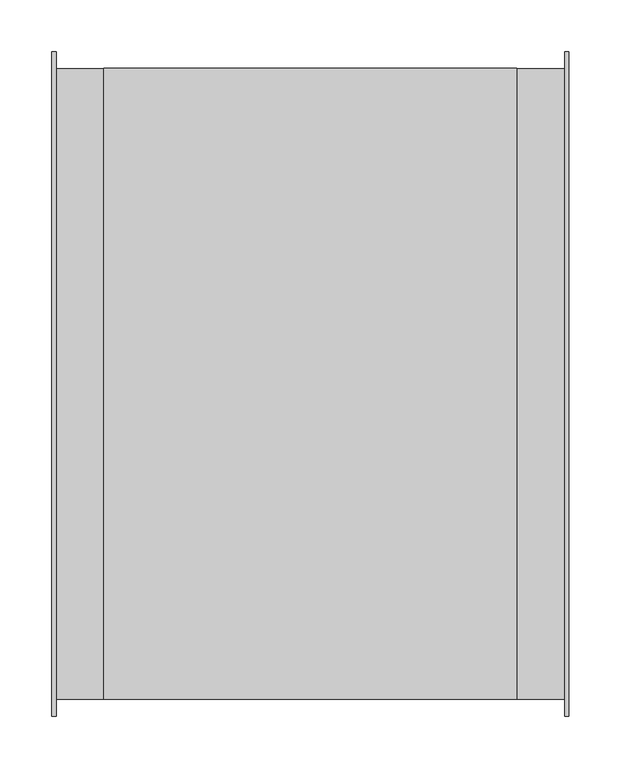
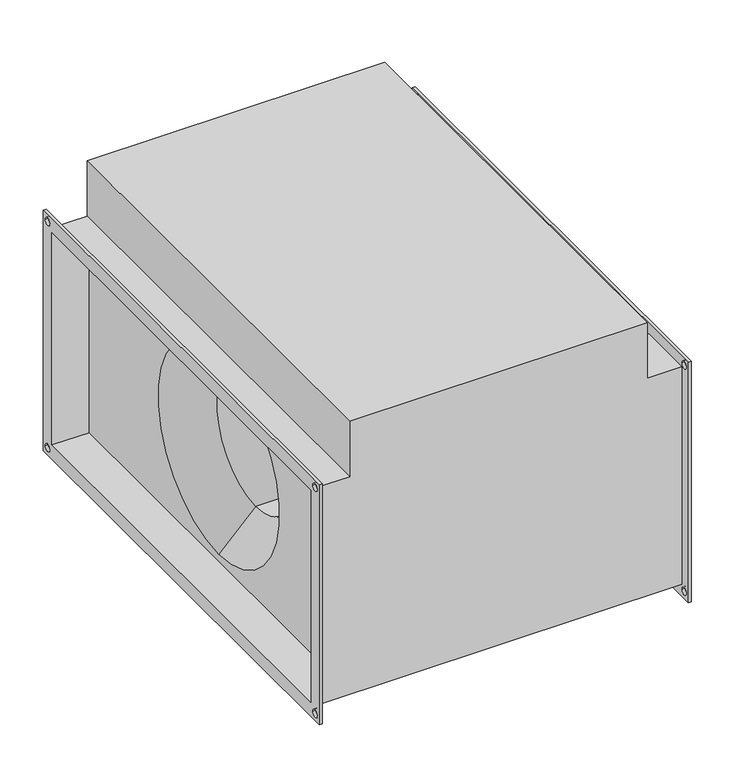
"""IFC4 building model written with IfcOpenShell, lengths in millimetres: proxy geometry, СВ_Вентилятор_КанальныйПрямоугольный_200-1000_SVPS : SVPS-600x300/28.2D."""

from ifc_helpers import new_model, si_unit, frame, origin, place, context, project, spatial, polyline, circle_curve, source, transform, mapped, element, save
from ifc_brep_helpers import plane_surface, revolved_surface, advanced_brep


def mechanical_equipment_7f2987f5(model_context):
    return source(origin(), model_context, "Body", "AdvancedBrep", [
        advanced_brep(
        [(-245.0, -304.0, 154.0), (-199.0, -304.0, 154.0), (-199.0, 304.0, 154.0), (-245.0, 304.0, 154.0), (199.0, 304.0, 232.0), (199.0, -304.0, 232.0), (199.0, -304.0, 154.0), (199.0, 304.0, 154.0), (199.0, 300.0, -150.0), (199.0, 300.0, 150.0), (199.0, -300.0, 150.0), (199.0, -300.0, -150.0), (199.0, 0.0, 140.0), (199.0, 0.0, -140.0), (-199.0, 300.0, 150.0), (-199.0, 300.0, -150.0), (-199.0, -300.0, -150.0), (-199.0, -300.0, 150.0), (-199.0, 0.0, -140.0), (-199.0, 0.0, 140.0), (-199.0, -304.0, 232.0), (-199.0, 304.0, 232.0), (-245.0, -304.0, -154.0), (245.0, -304.0, -154.0), (245.0, -304.0, 154.0), (-245.0, 304.0, -154.0), (245.0, 304.0, -154.0), (245.0, 304.0, 154.0), (149.0, 0.0, -90.0), (149.0, 0.0, 90.0), (-149.0, 0.0, 90.0), (-149.0, 0.0, -90.0), (-249.0, -320.0, 170.0), (-249.0, 320.0, 170.0), (-249.0, 320.0, -170.0), (-249.0, -320.0, -170.0), (-249.0, -300.0, 150.0), (-249.0, -300.0, -150.0), (-249.0, 300.0, -150.0), (-249.0, 300.0, 150.0), (-249.0, 305.0, 160.0), (-249.0, 315.0, 160.0), (-249.0, -315.0, 160.0), (-249.0, -305.0, 160.0), (-249.0, -315.0, -160.0), (-249.0, -305.0, -160.0), (-249.0, 305.0, -160.0), (-249.0, 315.0, -160.0), (-245.0, -320.0, 170.0), (-245.0, -320.0, -170.0), (-245.0, 320.0, -170.0), (-245.0, 320.0, 170.0), (-245.0, 315.0, 160.0), (-245.0, 305.0, 160.0), (-245.0, -305.0, 160.0), (-245.0, -315.0, 160.0), (-245.0, -305.0, -160.0), (-245.0, -315.0, -160.0), (-245.0, 315.0, -160.0), (-245.0, 305.0, -160.0), (245.0, 320.0, 170.0), (245.0, 320.0, -170.0), (245.0, -320.0, -170.0), (245.0, -320.0, 170.0), (245.0, 305.0, 160.0), (245.0, 315.0, 160.0), (245.0, -315.0, 160.0), (245.0, -305.0, 160.0), (245.0, -315.0, -160.0), (245.0, -305.0, -160.0), (245.0, 305.0, -160.0), (245.0, 315.0, -160.0), (249.0, 320.0, 170.0), (249.0, -320.0, 170.0), (249.0, -320.0, -170.0), (249.0, 320.0, -170.0), (249.0, 300.0, 150.0), (249.0, 300.0, -150.0), (249.0, -300.0, -150.0), (249.0, -300.0, 150.0), (249.0, 315.0, 160.0), (249.0, 305.0, 160.0), (249.0, -305.0, 160.0), (249.0, -315.0, 160.0), (249.0, -305.0, -160.0), (249.0, -315.0, -160.0), (249.0, 315.0, -160.0), (249.0, 305.0, -160.0)],
        [
            (0, 1),
            (1, 2),
            (2, 3),
            (3, 0),
            (4, 5),
            (5, 6),
            (6, 7),
            (7, 4),
            (8, 9),
            (9, 10),
            (10, 11),
            (11, 8),
            (12, 13, circle_curve(frame((199.0, 0.0, 0.0), z_axis=(-1.0, 0.0, 0.0), x_axis=(0.0, 0.0, 1.0)), 140.0)),
            (13, 12, circle_curve(frame((199.0, 0.0, 0.0), z_axis=(-1.0, 0.0, 0.0), x_axis=(0.0, 0.0, 1.0)), 140.0)),
            (14, 15),
            (15, 16),
            (16, 17),
            (17, 14),
            (18, 19, circle_curve(frame((-199.0, 0.0, 0.0), z_axis=(1.0, 0.0, 0.0), x_axis=(0.0, 0.0, 1.0)), 140.0)),
            (19, 18, circle_curve(frame((-199.0, 0.0, 0.0), z_axis=(1.0, 0.0, 0.0), x_axis=(0.0, 0.0, 1.0)), 140.0)),
            (20, 21),
            (21, 2),
            (1, 20),
            (5, 20),
            (0, 22),
            (22, 23),
            (23, 24),
            (24, 6),
            (22, 25),
            (25, 26),
            (26, 23),
            (21, 4),
            (7, 27),
            (27, 26),
            (25, 3),
            (24, 27),
            (28, 13),
            (12, 29),
            (29, 28, circle_curve(frame((149.0, 0.0, 0.0), z_axis=(-1.0, 0.0, 0.0), x_axis=(0.0, 0.0, 1.0)), 90.0)),
            (28, 29, circle_curve(frame((149.0, 0.0, 0.0), z_axis=(-1.0, 0.0, 0.0), x_axis=(0.0, 0.0, 1.0)), 90.0)),
            (29, 30),
            (30, 31, circle_curve(frame((-149.0, 0.0, 0.0), z_axis=(-1.0, 0.0, 0.0), x_axis=(0.0, 0.0, 1.0)), 90.0)),
            (31, 28),
            (31, 30, circle_curve(frame((-149.0, 0.0, 0.0), z_axis=(-1.0, 0.0, 0.0), x_axis=(0.0, 0.0, 1.0)), 90.0)),
            (30, 19),
            (18, 31),
            (32, 33),
            (33, 34),
            (34, 35),
            (35, 32),
            (36, 37),
            (37, 38),
            (38, 39),
            (39, 36),
            (40, 41, circle_curve(frame((-249.0, 310.0, 160.0), z_axis=(1.0, 0.0, 0.0), x_axis=(0.0, 1.0, 0.0)), 5.0)),
            (41, 40, circle_curve(frame((-249.0, 310.0, 160.0), z_axis=(1.0, 0.0, 0.0), x_axis=(0.0, 1.0, 0.0)), 5.0)),
            (42, 43, circle_curve(frame((-249.0, -310.0, 160.0), z_axis=(1.0, 0.0, 0.0), x_axis=(0.0, 1.0, 0.0)), 5.0)),
            (43, 42, circle_curve(frame((-249.0, -310.0, 160.0), z_axis=(1.0, 0.0, 0.0), x_axis=(0.0, 1.0, 0.0)), 5.0)),
            (44, 45, circle_curve(frame((-249.0, -310.0, -160.0), z_axis=(1.0, 0.0, 0.0), x_axis=(0.0, 1.0, 0.0)), 5.0)),
            (45, 44, circle_curve(frame((-249.0, -310.0, -160.0), z_axis=(1.0, 0.0, 0.0), x_axis=(0.0, 1.0, 0.0)), 5.0)),
            (46, 47, circle_curve(frame((-249.0, 310.0, -160.0), z_axis=(1.0, 0.0, 0.0), x_axis=(0.0, 1.0, 0.0)), 5.0)),
            (47, 46, circle_curve(frame((-249.0, 310.0, -160.0), z_axis=(1.0, 0.0, 0.0), x_axis=(0.0, 1.0, 0.0)), 5.0)),
            (48, 49),
            (49, 50),
            (50, 51),
            (51, 48),
            (52, 53, circle_curve(frame((-245.0, 310.0, 160.0), z_axis=(-1.0, 0.0, 0.0), x_axis=(0.0, 1.0, 0.0)), 5.0)),
            (53, 52, circle_curve(frame((-245.0, 310.0, 160.0), z_axis=(-1.0, 0.0, 0.0), x_axis=(0.0, 1.0, 0.0)), 5.0)),
            (54, 55, circle_curve(frame((-245.0, -310.0, 160.0), z_axis=(-1.0, 0.0, 0.0), x_axis=(0.0, 1.0, 0.0)), 5.0)),
            (55, 54, circle_curve(frame((-245.0, -310.0, 160.0), z_axis=(-1.0, 0.0, 0.0), x_axis=(0.0, 1.0, 0.0)), 5.0)),
            (56, 57, circle_curve(frame((-245.0, -310.0, -160.0), z_axis=(-1.0, 0.0, 0.0), x_axis=(0.0, 1.0, 0.0)), 5.0)),
            (57, 56, circle_curve(frame((-245.0, -310.0, -160.0), z_axis=(-1.0, 0.0, 0.0), x_axis=(0.0, 1.0, 0.0)), 5.0)),
            (58, 59, circle_curve(frame((-245.0, 310.0, -160.0), z_axis=(-1.0, 0.0, 0.0), x_axis=(0.0, 1.0, 0.0)), 5.0)),
            (59, 58, circle_curve(frame((-245.0, 310.0, -160.0), z_axis=(-1.0, 0.0, 0.0), x_axis=(0.0, 1.0, 0.0)), 5.0)),
            (35, 49),
            (48, 32),
            (34, 50),
            (33, 51),
            (60, 61),
            (61, 62),
            (62, 63),
            (63, 60),
            (64, 65, circle_curve(frame((245.0, 310.0, 160.0), z_axis=(1.0, 0.0, 0.0), x_axis=(0.0, 1.0, 0.0)), 5.0)),
            (65, 64, circle_curve(frame((245.0, 310.0, 160.0), z_axis=(1.0, 0.0, 0.0), x_axis=(0.0, 1.0, 0.0)), 5.0)),
            (66, 67, circle_curve(frame((245.0, -310.0, 160.0), z_axis=(1.0, 0.0, 0.0), x_axis=(0.0, 1.0, 0.0)), 5.0)),
            (67, 66, circle_curve(frame((245.0, -310.0, 160.0), z_axis=(1.0, 0.0, 0.0), x_axis=(0.0, 1.0, 0.0)), 5.0)),
            (68, 69, circle_curve(frame((245.0, -310.0, -160.0), z_axis=(1.0, 0.0, 0.0), x_axis=(0.0, 1.0, 0.0)), 5.0)),
            (69, 68, circle_curve(frame((245.0, -310.0, -160.0), z_axis=(1.0, 0.0, 0.0), x_axis=(0.0, 1.0, 0.0)), 5.0)),
            (70, 71, circle_curve(frame((245.0, 310.0, -160.0), z_axis=(1.0, 0.0, 0.0), x_axis=(0.0, 1.0, 0.0)), 5.0)),
            (71, 70, circle_curve(frame((245.0, 310.0, -160.0), z_axis=(1.0, 0.0, 0.0), x_axis=(0.0, 1.0, 0.0)), 5.0)),
            (72, 73),
            (73, 74),
            (74, 75),
            (75, 72),
            (76, 77),
            (77, 78),
            (78, 79),
            (79, 76),
            (80, 81, circle_curve(frame((249.0, 310.0, 160.0), z_axis=(-1.0, 0.0, 0.0), x_axis=(0.0, 1.0, 0.0)), 5.0)),
            (81, 80, circle_curve(frame((249.0, 310.0, 160.0), z_axis=(-1.0, 0.0, 0.0), x_axis=(0.0, 1.0, 0.0)), 5.0)),
            (82, 83, circle_curve(frame((249.0, -310.0, 160.0), z_axis=(-1.0, 0.0, 0.0), x_axis=(0.0, 1.0, 0.0)), 5.0)),
            (83, 82, circle_curve(frame((249.0, -310.0, 160.0), z_axis=(-1.0, 0.0, 0.0), x_axis=(0.0, 1.0, 0.0)), 5.0)),
            (84, 85, circle_curve(frame((249.0, -310.0, -160.0), z_axis=(-1.0, 0.0, 0.0), x_axis=(0.0, 1.0, 0.0)), 5.0)),
            (85, 84, circle_curve(frame((249.0, -310.0, -160.0), z_axis=(-1.0, 0.0, 0.0), x_axis=(0.0, 1.0, 0.0)), 5.0)),
            (86, 87, circle_curve(frame((249.0, 310.0, -160.0), z_axis=(-1.0, 0.0, 0.0), x_axis=(0.0, 1.0, 0.0)), 5.0)),
            (87, 86, circle_curve(frame((249.0, 310.0, -160.0), z_axis=(-1.0, 0.0, 0.0), x_axis=(0.0, 1.0, 0.0)), 5.0)),
            (63, 73),
            (72, 60),
            (62, 74),
            (61, 75),
            (39, 14),
            (17, 36),
            (38, 15),
            (37, 16),
            (76, 9),
            (8, 77),
            (11, 78),
            (10, 79),
            (40, 53),
            (52, 41),
            (64, 81),
            (80, 65),
            (42, 55),
            (54, 43),
            (66, 83),
            (82, 67),
            (44, 57),
            (56, 45),
            (68, 85),
            (84, 69),
            (46, 59),
            (58, 47),
            (70, 87),
            (86, 71),
        ],
        [
            plane_surface(frame((-199.0, 304.0, 154.0), z_axis=(0.0, 0.0, 1.0), x_axis=(-1.0, 0.0, 0.0))),
            plane_surface(frame((199.0, -304.0, 232.0), z_axis=(1.0, 0.0, 0.0), x_axis=(0.0, 0.0, -1.0))),
            plane_surface(frame((-199.0, -304.0, 232.0), z_axis=(-1.0, 0.0, 0.0), x_axis=(0.0, 0.0, 1.0))),
            plane_surface(frame((199.0, -304.0, 232.0), z_axis=(0.0, -1.0, 0.0), x_axis=(-1.0, 0.0, 0.0))),
            plane_surface(frame((199.0, -304.0, -154.0), z_axis=(0.0, 0.0, -1.0), x_axis=(-1.0, 0.0, 0.0))),
            plane_surface(frame((199.0, 304.0, -154.0), z_axis=(0.0, 1.0, 0.0), x_axis=(-1.0, 0.0, 0.0))),
            plane_surface(frame((199.0, 304.0, 232.0), z_axis=(0.0, 0.0, 1.0), x_axis=(-1.0, 0.0, 0.0))),
            plane_surface(frame((245.0, 304.0, 154.0), z_axis=(0.0, 0.0, 1.0), x_axis=(-1.0, 0.0, 0.0))),
            revolved_surface(polyline([(149.0, 0.0, 90.0), (199.0, 0.0, 140.0)]), (-636.0617897, 0.0, 0.0), (-1.0, 0.0, 0.0)),
            revolved_surface(polyline([(-149.0, 0.0, 90.0), (149.0, 0.0, 90.0)]), (-636.0617897, 0.0, 0.0), (-1.0, 0.0, 0.0)),
            revolved_surface(polyline([(-199.0, 0.0, 140.0), (-149.0, 0.0, 90.0)]), (-636.0617897, 0.0, 0.0), (-1.0, 0.0, 0.0)),
            plane_surface(frame((-249.0, -320.0, 170.0), z_axis=(-1.0, 0.0, 0.0), x_axis=(0.0, 0.0, 1.0))),
            plane_surface(frame((-245.0, -320.0, 170.0), z_axis=(1.0, 0.0, 0.0), x_axis=(0.0, 0.0, -1.0))),
            plane_surface(frame((-245.0, -320.0, 170.0), z_axis=(0.0, -1.0, 0.0), x_axis=(-1.0, 0.0, 0.0))),
            plane_surface(frame((-245.0, -320.0, -170.0), z_axis=(0.0, 0.0, -1.0), x_axis=(-1.0, 0.0, 0.0))),
            plane_surface(frame((-245.0, 320.0, -170.0), z_axis=(0.0, 1.0, 0.0), x_axis=(-1.0, 0.0, 0.0))),
            plane_surface(frame((-245.0, 320.0, 170.0), z_axis=(0.0, 0.0, 1.0), x_axis=(-1.0, 0.0, 0.0))),
            plane_surface(frame((245.0, 300.0, -150.0), z_axis=(-1.0, 0.0, 0.0), x_axis=(0.0, 0.0, 1.0))),
            plane_surface(frame((249.0, 300.0, -150.0), z_axis=(1.0, 0.0, 0.0), x_axis=(0.0, 0.0, -1.0))),
            plane_surface(frame((249.0, 320.0, 170.0), z_axis=(0.0, 0.0, 1.0), x_axis=(-1.0, 0.0, 0.0))),
            plane_surface(frame((249.0, -320.0, 170.0), z_axis=(0.0, -1.0, 0.0), x_axis=(-1.0, 0.0, 0.0))),
            plane_surface(frame((249.0, -320.0, -170.0), z_axis=(0.0, 0.0, -1.0), x_axis=(-1.0, 0.0, 0.0))),
            plane_surface(frame((249.0, 320.0, -170.0), z_axis=(0.0, 1.0, 0.0), x_axis=(-1.0, 0.0, 0.0))),
            plane_surface(frame((-245.0, -300.0, 150.0), z_axis=(0.0, 0.0, -1.0), x_axis=(-1.0, 0.0, 0.0))),
            plane_surface(frame((-245.0, 300.0, 150.0), z_axis=(0.0, -1.0, 0.0), x_axis=(-1.0, 0.0, 0.0))),
            plane_surface(frame((-245.0, 300.0, -150.0), z_axis=(0.0, 0.0, 1.0), x_axis=(-1.0, 0.0, 0.0))),
            plane_surface(frame((-245.0, -300.0, -150.0), z_axis=(0.0, 1.0, 0.0), x_axis=(-1.0, 0.0, 0.0))),
            plane_surface(frame((249.0, 300.0, 150.0), z_axis=(0.0, -1.0, 0.0), x_axis=(-1.0, 0.0, 0.0))),
            plane_surface(frame((249.0, 300.0, -150.0), z_axis=(0.0, 0.0, 1.0), x_axis=(-1.0, 0.0, 0.0))),
            plane_surface(frame((249.0, -300.0, -150.0), z_axis=(0.0, 1.0, 0.0), x_axis=(-1.0, 0.0, 0.0))),
            plane_surface(frame((249.0, -300.0, 150.0), z_axis=(0.0, 0.0, -1.0), x_axis=(-1.0, 0.0, 0.0))),
            revolved_surface(polyline([(-245.0, 315.0, 160.0), (-249.0, 315.0, 160.0)]), (-249.0, 310.0, 160.0), (1.0, 0.0, 0.0)),
            revolved_surface(polyline([(249.0, 315.0, 160.0), (245.0, 315.0, 160.0)]), (-249.0, 310.0, 160.0), (1.0, 0.0, 0.0)),
            revolved_surface(polyline([(-245.0, -305.0, 160.0), (-249.0, -305.0, 160.0)]), (0.0, -310.0, 160.0), (1.0, 0.0, 0.0)),
            revolved_surface(polyline([(249.0, -305.0, 160.0), (245.0, -305.0, 160.0)]), (0.0, -310.0, 160.0), (1.0, 0.0, 0.0)),
            revolved_surface(polyline([(-245.0, -305.0, -160.0), (-249.0, -305.0, -160.0)]), (0.0, -310.0, -160.0), (1.0, 0.0, 0.0)),
            revolved_surface(polyline([(249.0, -305.0, -160.0), (245.0, -305.0, -160.0)]), (0.0, -310.0, -160.0), (1.0, 0.0, 0.0)),
            revolved_surface(polyline([(-245.0, 315.0, -160.0), (-249.0, 315.0, -160.0)]), (0.0, 310.0, -160.0), (1.0, 0.0, 0.0)),
            revolved_surface(polyline([(249.0, 315.0, -160.0), (245.0, 315.0, -160.0)]), (0.0, 310.0, -160.0), (1.0, 0.0, 0.0)),
        ],
        [
            (0, [[1, 2, 3, 4]]),
            (1, [[5, 6, 7, 8]]),
            (1, [[9, 10, 11, 12], [13, 14]]),
            (2, [[15, 16, 17, 18], [19, 20]]),
            (2, [[21, 22, -2, 23]]),
            (3, [[24, -23, -1, 25, 26, 27, 28, -6]]),
            (4, [[-26, 29, 30, 31]]),
            (5, [[32, -8, 33, 34, -30, 35, -3, -22]]),
            (6, [[-5, -32, -21, -24]]),
            (7, [[-28, 36, -33, -7]]),
            (8, [[37, -13, 38, 39]]),
            (8, [[-37, 40, -38, -14]]),
            (9, [[-39, 41, 42, 43]]),
            (9, [[-40, -43, 44, -41]]),
            (10, [[-42, 45, -19, 46]]),
            (10, [[-44, -46, -20, -45]]),
            (11, [[47, 48, 49, 50], [51, 52, 53, 54], [55, 56], [57, 58], [59, 60], [61, 62]]),
            (12, [[63, 64, 65, 66], [-25, -4, -35, -29], [67, 68], [69, 70], [71, 72], [73, 74]]),
            (13, [[-50, 75, -63, 76]]),
            (14, [[-49, 77, -64, -75]]),
            (15, [[-48, 78, -65, -77]]),
            (16, [[-47, -76, -66, -78]]),
            (17, [[79, 80, 81, 82], [-27, -31, -34, -36], [83, 84], [85, 86], [87, 88], [89, 90]]),
            (18, [[91, 92, 93, 94], [95, 96, 97, 98], [99, 100], [101, 102], [103, 104], [105, 106]]),
            (19, [[-82, 107, -91, 108]]),
            (20, [[-81, 109, -92, -107]]),
            (21, [[-80, 110, -93, -109]]),
            (22, [[-79, -108, -94, -110]]),
            (23, [[-54, 111, -18, 112]]),
            (24, [[-53, 113, -15, -111]]),
            (25, [[-52, 114, -16, -113]]),
            (26, [[-51, -112, -17, -114]]),
            (27, [[-95, 115, -9, 116]]),
            (28, [[-96, -116, -12, 117]]),
            (29, [[-97, -117, -11, 118]]),
            (30, [[-115, -98, -118, -10]]),
            (31, [[119, -67, 120, -55]]),
            (32, [[121, -99, 122, -83]]),
            (31, [[-119, -56, -120, -68]]),
            (32, [[-121, -84, -122, -100]]),
            (33, [[123, -69, 124, -57]]),
            (34, [[125, -101, 126, -85]]),
            (33, [[-123, -58, -124, -70]]),
            (34, [[-125, -86, -126, -102]]),
            (35, [[127, -71, 128, -59]]),
            (36, [[129, -103, 130, -87]]),
            (35, [[-127, -60, -128, -72]]),
            (36, [[-129, -88, -130, -104]]),
            (37, [[131, -73, 132, -61]]),
            (38, [[133, -105, 134, -89]]),
            (37, [[-131, -62, -132, -74]]),
            (38, [[-133, -90, -134, -106]]),
        ],
    ),
    ])


if __name__ == "__main__":
    model = new_model("IFC4")
    model_context = context("Model", 3, world=origin())
    ifc_project = project(units=[si_unit("LENGTHUNIT", "METRE", prefix="MILLI")], contexts=[model_context])
    site = spatial("IfcSite", under=ifc_project)
    building = spatial("IfcBuilding", under=site)
    placement = place(None, origin())
    mechanical_equipment_shape = mechanical_equipment_7f2987f5(model_context)
    element("IfcBuildingElementProxy", 1, Name="СВ_Вентилятор_КанальныйПрямоугольный_200-1000_SVPS : SVPS-600x300/28.2D", ObjectType="СВ_Вентилятор_КанальныйПрямоугольный_200-1000_SVPS : SVPS-600x300/28.2D", at=placement, inside=building, context=model_context, shape_type="MappedRepresentation", body=[
        mapped(mechanical_equipment_shape, transform((0.0, 0.0, 0.0), x_axis=(1.0, 0.0, 0.0), y_axis=(0.0, 1.0, 0.0), z_axis=(0.0, 0.0, 1.0))),
    ])
    save(model, "model.ifc")
